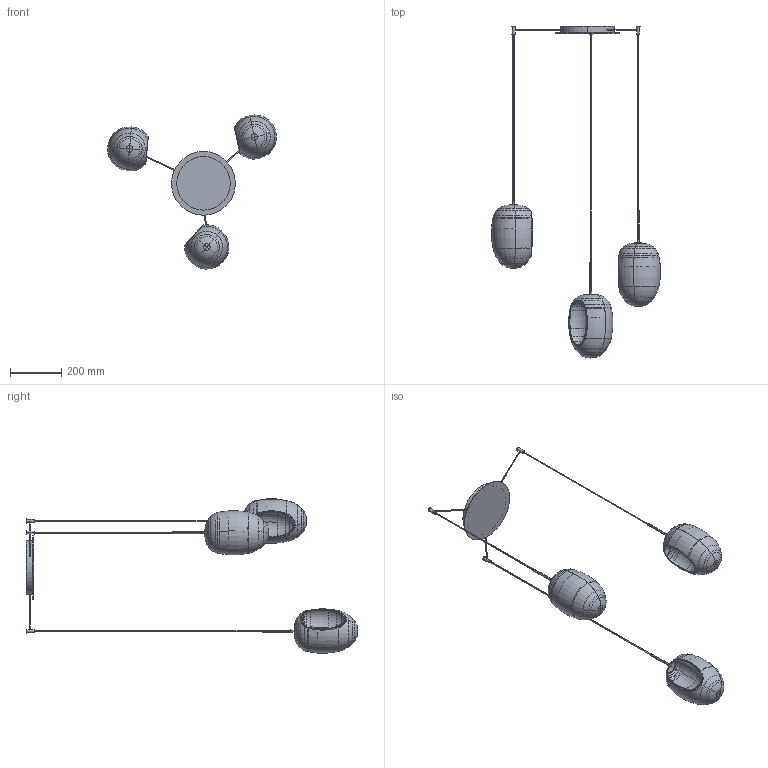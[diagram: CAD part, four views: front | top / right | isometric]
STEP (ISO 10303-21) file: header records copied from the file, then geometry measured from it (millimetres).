
FILE_DESCRIPTION (( 'STEP AP203' ), '1' );
FILE_NAME ('FOS03_3 sospensione.STEP', '2025-05-19T07:13:08', ( '' ), ( '' ), 'SwSTEP 2.0', 'SolidWorks 2022', '' );
FILE_SCHEMA (( 'CONFIG_CONTROL_DESIGN' ));
Length unit declared in the file: millimetre
Products named in the file (10): FOS03_3 sospensione; FOS parte in vetro; Cavo x Fos_H=1700; FOSxx-01-FOS_rosone+cavi_FOS_3 sospensione<A macchina>; FOSxx-01-FOS_lampada completa con cavo_H=1700; FOSxx-01-FOS_lampada completa con cavo_H=1900; FOSxx-01-FOS_lampada completa con cavo_H=2050; Cavo x Fos_H=1900; Cavo x Fos_H=2050; Porta lampada definitivo FOS
Assembly tree (13 placements, depth 3):
  FOS03_3 sospensione
    FOSxx-01-FOS_rosone+cavi_FOS_3 sospensione<A macchina>
    FOSxx-01-FOS_lampada completa con cavo_H=1700
      Porta lampada definitivo FOS
      FOS parte in vetro
      Cavo x Fos_H=1700
    FOSxx-01-FOS_lampada completa con cavo_H=2050
      Porta lampada definitivo FOS
      FOS parte in vetro
      Cavo x Fos_H=2050
    FOSxx-01-FOS_lampada completa con cavo_H=1900
      Porta lampada definitivo FOS
      FOS parte in vetro
      Cavo x Fos_H=1900
Bounding box: 662.14 x 1300.54 x 604.17 mm (x, y, z)
Volume: 2287319 mm3; surface area: 1093715.9 mm2
Topology: 31 solids, 31 shells, 697 faces, 1656 edges, 1025 vertices
Faces by surface type: torus 243, plane 182, cylinder 143, bspline 66, cone 63
Entity records: 15424 total; most frequent: CARTESIAN_POINT 8099, DIRECTION 1351, ORIENTED_EDGE 1260, EDGE_CURVE 630, AXIS2_PLACEMENT_3D 574, VERTEX_POINT 393, CIRCLE 304, EDGE_LOOP 285
